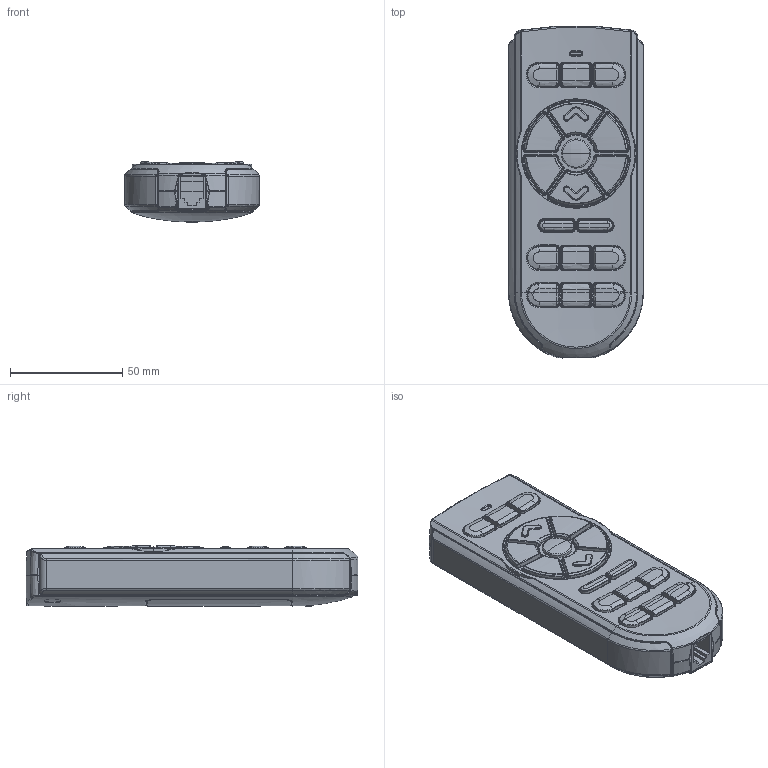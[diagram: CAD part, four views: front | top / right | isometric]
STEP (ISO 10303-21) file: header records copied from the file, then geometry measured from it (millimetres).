
FILE_DESCRIPTION (( 'STEP AP203' ), '1' );
FILE_NAME ('3D_TH25.STEP', '2014-03-04T06:01:27', ( '' ), ( '' ), 'SwSTEP 2.0', 'SolidWorks 2010', '' );
FILE_SCHEMA (( 'CONFIG_CONTROL_DESIGN' ));
Products named in the file (1): 3D_TH25
Bounding box: 60 x 147.8 x 27.03 mm (x, y, z)
Volume: 191710.3 mm3; surface area: 36450.9 mm2
Topology: 1 solids, 3 shells, 1379 faces, 3268 edges, 1904 vertices
Faces by surface type: bspline 787, cylinder 256, plane 216, cone 116, torus 4
Entity records: 88321 total; most frequent: CARTESIAN_POINT 64785, ORIENTED_EDGE 6512, EDGE_CURVE 3256, B_SPLINE_CURVE_WITH_KNOTS 2300, DIRECTION 2086, VERTEX_POINT 1904, EDGE_LOOP 1404, ADVANCED_FACE 1379
